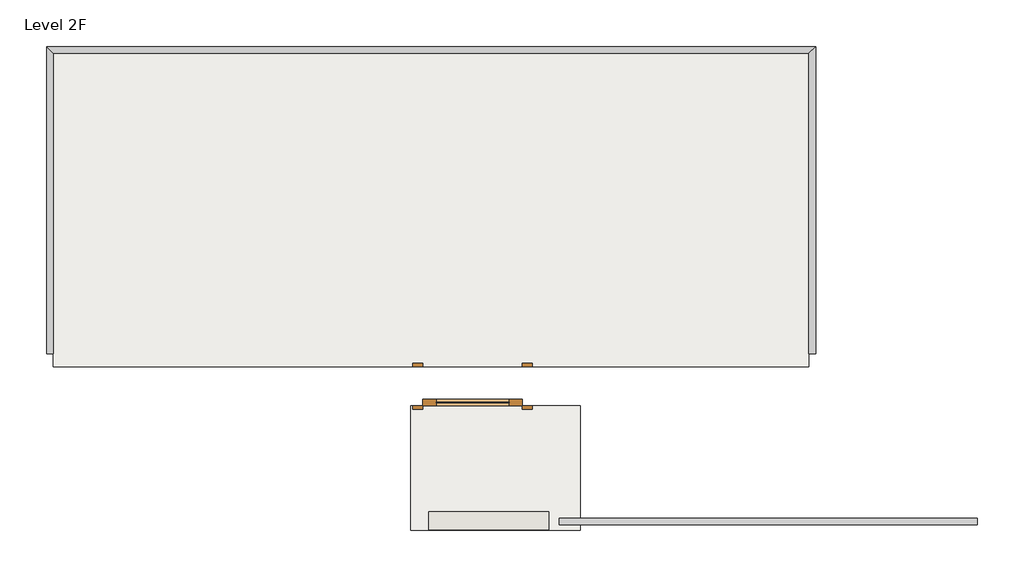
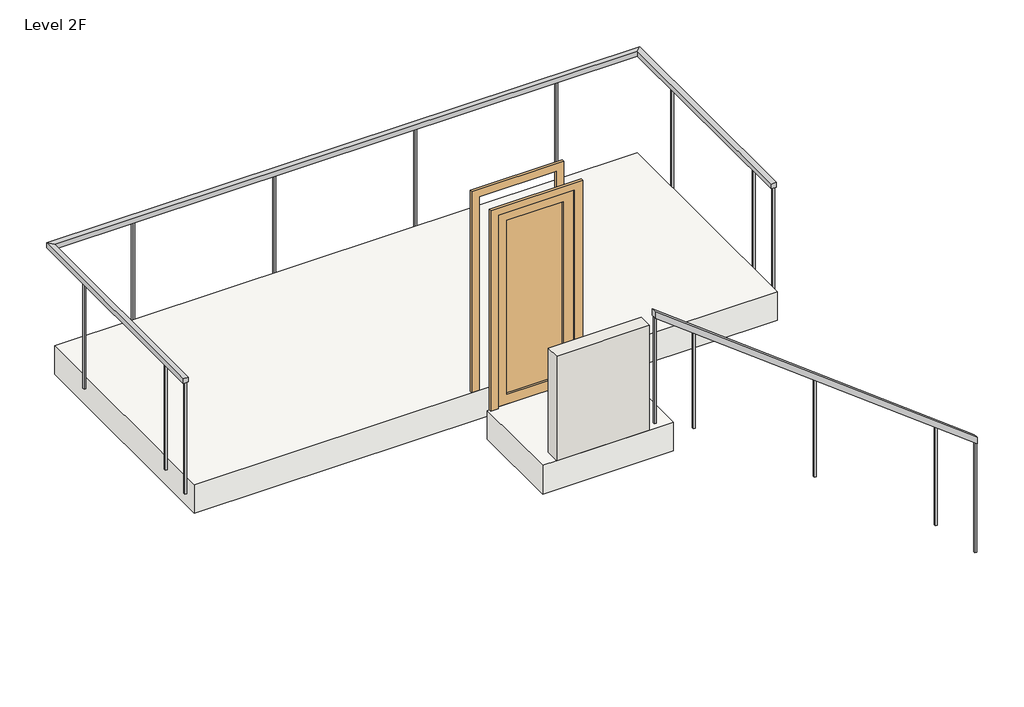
# One storey, incomplete: 2 railings, 2 slabs, 1 door, 1 wall.
"""IFC4 building model written with IfcOpenShell, lengths in millimetres."""

from ifc_helpers import new_model, si_unit, frame, origin, place, context, project, spatial, polyline, outline, extrude, faceted_brep, transform, mapped, element, save
from components import m_single_glass_1_0762_x_2032mm_4bb71081, guardrail_rectangular_tn_balcony_1_b59f09ed, guardrail_rectangular_tn_stairs_1_c1588243

model = new_model("IFC4")

# Units and contexts
model_context = context("Model", 3, world=origin())
ifc_project = project(units=[si_unit("LENGTHUNIT", "METRE", prefix="MILLI")], contexts=[model_context])

# Site, building, storey
site = spatial("IfcSite", under=ifc_project)
building = spatial("IfcBuilding", under=site)
storey = spatial("IfcBuildingStorey", under=building, Name="Level 2F", Elevation=2600.0)

# Door
placement = place(None, origin())
m_single_glass_1_0762_x_2032mm_shape = m_single_glass_1_0762_x_2032mm_4bb71081(model_context)
element("IfcDoor", 1, ObjectType="M_Single-Glass 1 : 0762 x 2032mm", at=placement, inside=storey, context=model_context, shape_type="MappedRepresentation", body=[
    mapped(m_single_glass_1_0762_x_2032mm_shape, transform((-748.7239276, -12846.8966791, 2600.0), x_axis=(-1.0, 0.0, 0.0), y_axis=(0.0, -1.0, 0.0), z_axis=(0.0, 0.0, 1.0))),
])

# Railings
guardrail_rectangular_tn_balcony_1_shape = guardrail_rectangular_tn_balcony_1_b59f09ed(model_context)
element("IfcRailing", 2, ObjectType="Guardrail - Rectangular TN balcony 1", at=placement, inside=storey, context=model_context, shape_type="MappedRepresentation", body=[
    mapped(guardrail_rectangular_tn_balcony_1_shape, transform((0.0, 0.0, 0.0), x_axis=(1.0, 0.0, 0.0), y_axis=(0.0, 1.0, 0.0), z_axis=(0.0, 0.0, 1.0))),
])
guardrail_rectangular_tn_stairs_1_shape = guardrail_rectangular_tn_stairs_1_c1588243(model_context)
element("IfcRailing", 3, ObjectType="Guardrail - Rectangular TN stairs 1", at=placement, inside=storey, context=model_context, shape_type="MappedRepresentation", body=[
    mapped(guardrail_rectangular_tn_stairs_1_shape, transform((0.0, 0.0, 0.0), x_axis=(1.0, 0.0, 0.0), y_axis=(0.0, 1.0, 0.0), z_axis=(0.0, 0.0, 1.0))),
])

# Slabs
element("IfcSlab", 4, ObjectType="Generic 300mm", at=placement, inside=storey, context=model_context, shape_type="Brep", body=[
    faceted_brep([(1826.2760724, -10296.8966791, 2300.0), (1826.2760724, -12696.8966791, 2300.0), (-3959.2239276, -12696.8966791, 2300.0), (-3959.2239276, -10296.8966791, 2300.0), (1826.2760724, -10296.8966791, 2600.0), (-3959.2239276, -10296.8966791, 2600.0), (-3959.2239276, -12696.8966791, 2600.0), (-1129.7239276, -12696.8966791, 2600.0), (-367.7239276, -12696.8966791, 2600.0), (1826.2760724, -12696.8966791, 2600.0)], [[[0, 1, 2, 3]], [[4, 5, 6, 7, 8, 9]], [[1, 0, 4, 9]], [[2, 1, 9, 8, 7, 6]], [[3, 2, 6, 5]], [[0, 3, 5, 4]]]),
])
element("IfcSlab", 5, ObjectType="Generic 300mm", at=placement, inside=storey, context=model_context, shape_type="Brep", body=[
    faceted_brep([(-1223.7239276, -13946.8966791, 2300.0), (-1223.7239276, -12996.8966791, 2300.0), (76.2760724, -12996.8966791, 2300.0), (76.2760724, -13946.8966791, 2300.0), (-1223.7239276, -13946.8966791, 2600.0), (-1084.7057462, -13946.8966791, 2600.0), (-164.7057462, -13946.8966791, 2600.0), (76.2760724, -13946.8966791, 2600.0), (76.2760724, -12996.8966791, 2600.0), (-1223.7239276, -12996.8966791, 2600.0)], [[[0, 1, 2, 3]], [[4, 5, 6, 7, 8, 9]], [[1, 0, 4, 9]], [[2, 1, 9, 8]], [[3, 2, 8, 7]], [[0, 3, 7, 6, 5, 4]]]),
])

# Wall
element("IfcWall", 6, ObjectType="Interior - 138mm Partition (1-hr)", at=placement, inside=storey, context=model_context, shape_type="SweptSolid", body=[
    extrude(outline(polyline([(-164.7057462, -13946.8966791), (-1084.7057462, -13946.8966791), (-1084.7057462, -13808.3966791), (-164.7057462, -13808.3966791), (-164.7057462, -13946.8966791)])), frame((0.0, 0.0, 2600.0), z_axis=(0.0, 0.0, 1.0), x_axis=(1.0, 0.0, 0.0)), (0.0, 0.0, 1.0), 1100.0),
])

save(model, "model.ifc")
